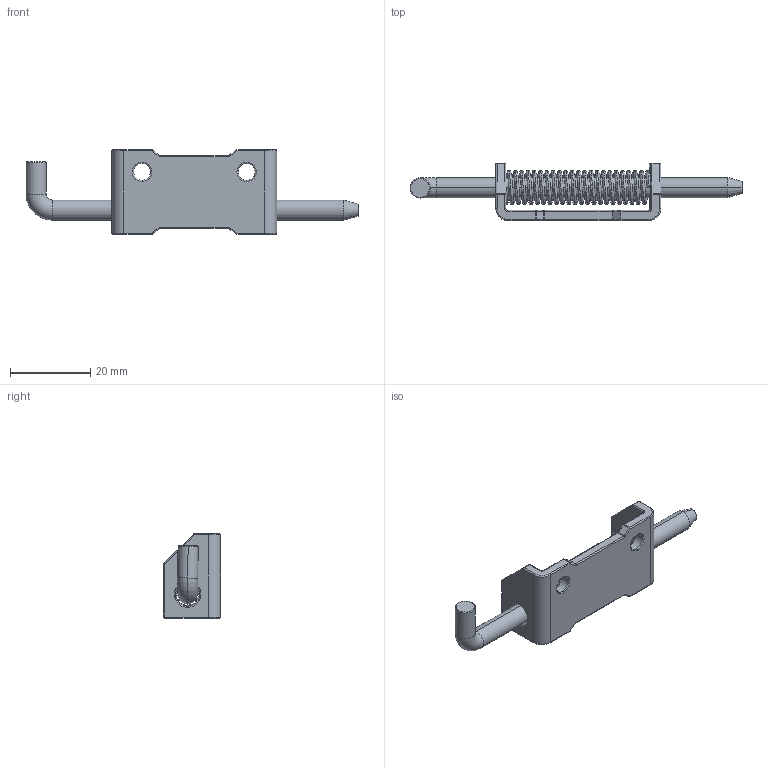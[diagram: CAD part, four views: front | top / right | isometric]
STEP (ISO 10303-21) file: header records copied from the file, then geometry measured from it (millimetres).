
FILE_DESCRIPTION (( 'STEP AP203' ), '1' );
FILE_NAME ('1213861.STEP', '2018-11-14T02:03:11', ( '' ), ( '' ), 'SwSTEP 2.0', 'SolidWorks 2018', '' );
FILE_SCHEMA (( 'CONFIG_CONTROL_DESIGN' ));
Length unit declared in the file: millimetre
Products named in the file (5): 1213860-1; 1213860; 1213861; 1213860-3; 1213860-2
Assembly tree (4 placements, depth 2):
  1213861
    1213860
    1213860-1
    1213860-2
    1213860-3
Bounding box: 82.5 x 14.2 x 21 mm (x, y, z)
Volume: 4999.7 mm3; surface area: 6040.4 mm2
Topology: 4 solids, 4 shells, 152 faces, 342 edges, 182 vertices
Faces by surface type: cylinder 68, torus 32, plane 28, sphere 20, cone 2, bspline 2
Entity records: 9197 total; most frequent: CARTESIAN_POINT 5263, DIRECTION 832, ORIENTED_EDGE 652, AXIS2_PLACEMENT_3D 351, EDGE_CURVE 326, CIRCLE 194, VERTEX_POINT 182, EDGE_LOOP 160
